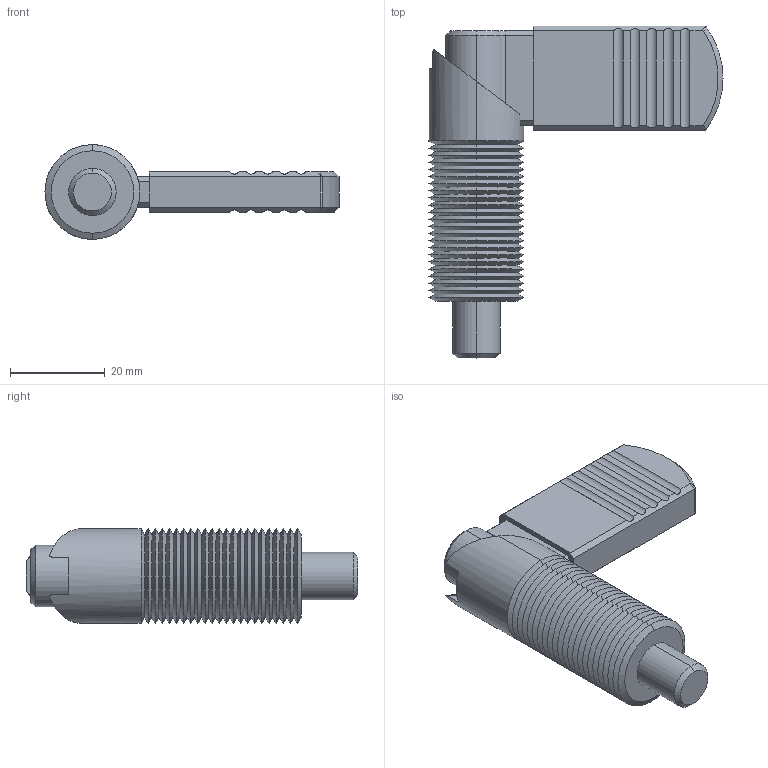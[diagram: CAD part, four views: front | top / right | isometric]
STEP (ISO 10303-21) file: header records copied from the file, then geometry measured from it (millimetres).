
FILE_DESCRIPTION (( 'STEP AP203' ), '1' );
FILE_NAME ('32501.W0370.step', '2016-02-10T17:23:26', ( 'User' ), ( '' ), 'SwSTEP 2.0', 'SolidWorks 2009', '' );
FILE_SCHEMA (( 'CONFIG_CONTROL_DESIGN' ));
Length unit declared in the file: millimetre
Products named in the file (4): 32501.W0370; Part1_32501.W0370; Part2_32501.W0370; Part3_32501.W0370
Assembly tree (3 placements, depth 2):
  32501.W0370
    Part2_32501.W0370
    Part1_32501.W0370
    Part3_32501.W0370
Bounding box: 62 x 70 x 20 mm (x, y, z)
Volume: 17232.1 mm3; surface area: 15533.9 mm2
Topology: 3 solids, 3 shells, 220 faces, 513 edges, 303 vertices
Faces by surface type: cone 107, cylinder 55, plane 54, bspline 4
Entity records: 6702 total; most frequent: CARTESIAN_POINT 1446, ORIENTED_EDGE 1026, DIRECTION 1016, EDGE_CURVE 513, AXIS2_PLACEMENT_3D 371, VERTEX_POINT 303, VECTOR 274, LINE 274
